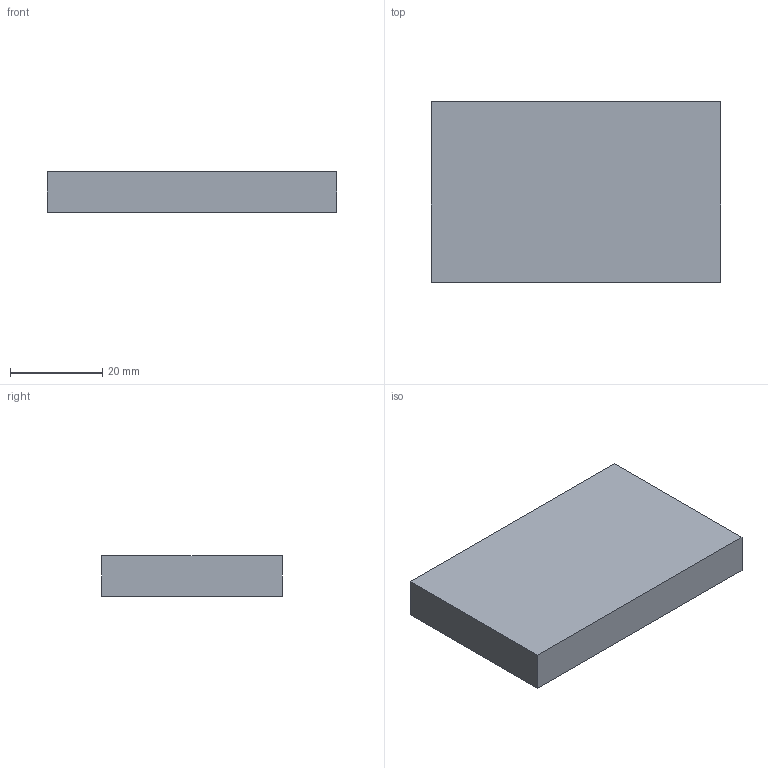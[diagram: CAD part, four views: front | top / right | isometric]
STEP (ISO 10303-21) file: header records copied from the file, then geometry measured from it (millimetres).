
FILE_DESCRIPTION(('Open CASCADE Model'),'2;1');
FILE_NAME('Open CASCADE Shape Model','2026-09-15T13:06:28',('Author'),( 'Open CASCADE'),'Open CASCADE STEP processor 7.7','Open CASCADE 7.7' ,'Unknown');
FILE_SCHEMA(('AUTOMOTIVE_DESIGN { 1 0 10303 214 1 1 1 1 }'));
Length unit declared in the file: millimetre
Products named in the file (1): Open CASCADE STEP translator 7.7 4
Bounding box: 62.6 x 39.1 x 8.8 mm (x, y, z)
Volume: 21539.4 mm3; surface area: 6685.2 mm2
Topology: 1 solids, 1 shells, 6 faces, 12 edges, 8 vertices
Faces by surface type: plane 6
Entity records: 322 total; most frequent: CARTESIAN_POINT 51, DIRECTION 50, LINE 36, VECTOR 36, ORIENTED_EDGE 24, PCURVE 24, DEFINITIONAL_REPRESENTATION 24, EDGE_CURVE 12
